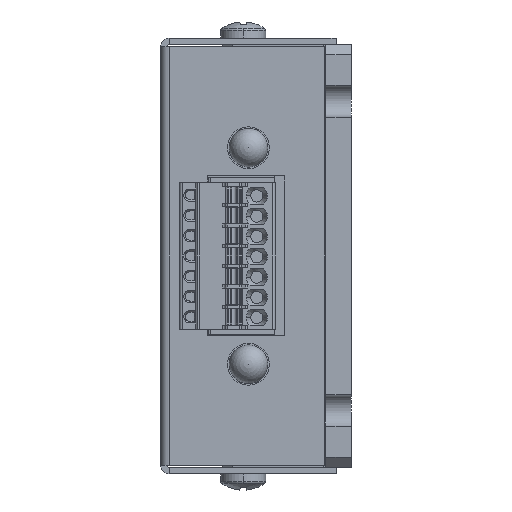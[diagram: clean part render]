
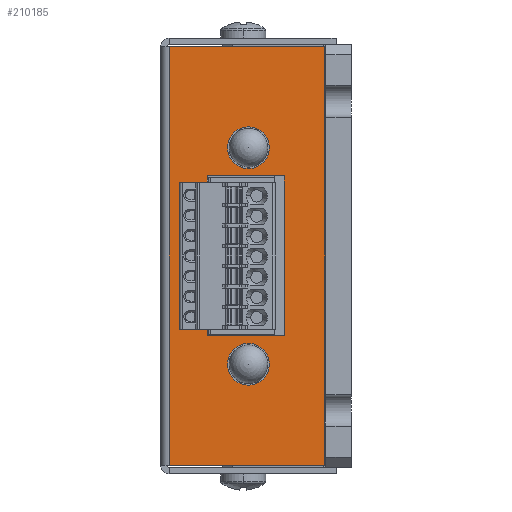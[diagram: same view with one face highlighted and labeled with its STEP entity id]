
A CAD part, left-side view. The second image highlights one B-rep face of the part: STEP entity #210185.
In plain terms, the highlighted planar face has unit normal (-1, 0, 0).
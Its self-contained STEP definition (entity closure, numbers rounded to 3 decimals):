
#51605 = CARTESIAN_POINT ( 'NONE',  ( 0., -13.373, -40.157 ) ) ;
#51606 = DIRECTION ( 'NONE',  ( 0., -1., 0. ) ) ;
#51607 = DIRECTION ( 'NONE',  ( -1., 0., 0. ) ) ;
#51608 = CARTESIAN_POINT ( 'NONE',  ( 0., -10.795, -40.157 ) ) ;
#51609 = AXIS2_PLACEMENT_3D ( 'NONE', #51608, #51607, #51606 ) ;
#51614 = CIRCLE ( 'NONE', #51609, 2.578 ) ;
#51662 = CARTESIAN_POINT ( 'NONE',  ( 0., -8.217, -13.487 ) ) ;
#51742 = CARTESIAN_POINT ( 'NONE',  ( 0., -13.373, -13.487 ) ) ;
#51743 = DIRECTION ( 'NONE',  ( 0., -1., 0. ) ) ;
#51744 = DIRECTION ( 'NONE',  ( -1., 0., 0. ) ) ;
#51745 = CARTESIAN_POINT ( 'NONE',  ( 0., -10.795, -13.487 ) ) ;
#51746 = AXIS2_PLACEMENT_3D ( 'NONE', #51745, #51744, #51743 ) ;
#51747 = CIRCLE ( 'NONE', #51746, 2.578 ) ;
#51886 = CARTESIAN_POINT ( 'NONE',  ( 0., -8.217, -40.157 ) ) ;
#84920 = CARTESIAN_POINT ( 'NONE',  ( 0., -1.041, -1.041 ) ) ;
#85207 = CARTESIAN_POINT ( 'NONE',  ( 0., -1.041, -52.603 ) ) ;
#85430 = CARTESIAN_POINT ( 'NONE',  ( 0., -20.193, -1.041 ) ) ;
#85431 = DIRECTION ( 'NONE',  ( 0., -1., 0. ) ) ;
#85433 = VECTOR ( 'NONE', #85431, 1000. ) ;
#85434 = CARTESIAN_POINT ( 'NONE',  ( 0., -0.787, -1.041 ) ) ;
#85435 = LINE ( 'NONE', #85434, #85433 ) ;
#85560 = DIRECTION ( 'NONE',  ( 0., 0., 1. ) ) ;
#85561 = VECTOR ( 'NONE', #85560, 1000. ) ;
#85562 = CARTESIAN_POINT ( 'NONE',  ( 0., -1.041, -1.041 ) ) ;
#85563 = LINE ( 'NONE', #85562, #85561 ) ;
#85639 = CARTESIAN_POINT ( 'NONE',  ( 0., -20.193, -52.603 ) ) ;
#85640 = DIRECTION ( 'NONE',  ( 0., 1., 0. ) ) ;
#85641 = VECTOR ( 'NONE', #85640, 1000. ) ;
#85642 = CARTESIAN_POINT ( 'NONE',  ( 0., -20.193, -52.603 ) ) ;
#85643 = LINE ( 'NONE', #85642, #85641 ) ;
#85645 = CARTESIAN_POINT ( 'NONE',  ( 0., -5.715, -16.967 ) ) ;
#85741 = CARTESIAN_POINT ( 'NONE',  ( 0., -20.193, -1.041 ) ) ;
#85743 = AXIS2_PLACEMENT_3D ( 'NONE', #85741, #85859, #85857 ) ;
#85750 = PLANE ( 'NONE',  #85743 ) ;
#85778 = FACE_OUTER_BOUND ( 'NONE', #210410, .T. ) ;
#85779 = FACE_BOUND ( 'NONE', #210283, .T. ) ;
#85781 = FACE_BOUND ( 'NONE', #210266, .T. ) ;
#85783 = FACE_BOUND ( 'NONE', #210187, .T. ) ;
#85851 = DIRECTION ( 'NONE',  ( 0., -1., 0. ) ) ;
#85852 = DIRECTION ( 'NONE',  ( -1., 0., 0. ) ) ;
#85853 = CARTESIAN_POINT ( 'NONE',  ( 0., -10.795, -13.487 ) ) ;
#85854 = AXIS2_PLACEMENT_3D ( 'NONE', #85853, #85852, #85851 ) ;
#85855 = CIRCLE ( 'NONE', #85854, 2.578 ) ;
#85857 = DIRECTION ( 'NONE',  ( 0., 1., 0. ) ) ;
#85859 = DIRECTION ( 'NONE',  ( 1., 0., 0. ) ) ;
#85943 = DIRECTION ( 'NONE',  ( 0., 0., -1. ) ) ;
#85944 = VECTOR ( 'NONE', #85943, 1000. ) ;
#85945 = CARTESIAN_POINT ( 'NONE',  ( 0., -20.193, -1.041 ) ) ;
#85947 = LINE ( 'NONE', #85945, #85944 ) ;
#85980 = DIRECTION ( 'NONE',  ( 0., -1., 0. ) ) ;
#85982 = DIRECTION ( 'NONE',  ( -1., 0., 0. ) ) ;
#85983 = CARTESIAN_POINT ( 'NONE',  ( 0., -10.795, -40.157 ) ) ;
#85985 = AXIS2_PLACEMENT_3D ( 'NONE', #85983, #85982, #85980 ) ;
#85987 = CIRCLE ( 'NONE', #85985, 2.578 ) ;
#86036 = CARTESIAN_POINT ( 'NONE',  ( 0., -15.24, -16.967 ) ) ;
#86039 = CARTESIAN_POINT ( 'NONE',  ( 0., -15.24, -36.652 ) ) ;
#86041 = DIRECTION ( 'NONE',  ( 0., 0., 1. ) ) ;
#86042 = VECTOR ( 'NONE', #86041, 1000. ) ;
#86043 = CARTESIAN_POINT ( 'NONE',  ( 0., -15.24, -36.652 ) ) ;
#86044 = LINE ( 'NONE', #86043, #86042 ) ;
#86122 = CARTESIAN_POINT ( 'NONE',  ( 0., -5.715, -36.652 ) ) ;
#86123 = DIRECTION ( 'NONE',  ( 0., -1., 0. ) ) ;
#86124 = VECTOR ( 'NONE', #86123, 1000. ) ;
#86125 = CARTESIAN_POINT ( 'NONE',  ( 0., -5.715, -36.652 ) ) ;
#86127 = LINE ( 'NONE', #86125, #86124 ) ;
#86178 = DIRECTION ( 'NONE',  ( 0., 0., -1. ) ) ;
#86179 = VECTOR ( 'NONE', #86178, 1000. ) ;
#86180 = CARTESIAN_POINT ( 'NONE',  ( 0., -5.715, -36.652 ) ) ;
#86181 = LINE ( 'NONE', #86180, #86179 ) ;
#86254 = LINE ( 'NONE', #86367, #86366 ) ;
#86364 = DIRECTION ( 'NONE',  ( 0., 1., 0. ) ) ;
#86366 = VECTOR ( 'NONE', #86364, 1000. ) ;
#86367 = CARTESIAN_POINT ( 'NONE',  ( 0., -5.715, -16.967 ) ) ;
#186851 = EDGE_CURVE ( 'NONE', #187024, #186855, #51614, .T. ) ;
#186855 = VERTEX_POINT ( 'NONE', #51605 ) ;
#186914 = VERTEX_POINT ( 'NONE', #51662 ) ;
#186924 = EDGE_CURVE ( 'NONE', #186914, #186926, #51747, .T. ) ;
#186926 = VERTEX_POINT ( 'NONE', #51742 ) ;
#187024 = VERTEX_POINT ( 'NONE', #51886 ) ;
#209891 = VERTEX_POINT ( 'NONE', #84920 ) ;
#209999 = VERTEX_POINT ( 'NONE', #85207 ) ;
#210056 = EDGE_CURVE ( 'NONE', #209891, #210059, #85435, .T. ) ;
#210059 = VERTEX_POINT ( 'NONE', #85430 ) ;
#210111 = EDGE_CURVE ( 'NONE', #209999, #209891, #85563, .T. ) ;
#210148 = VERTEX_POINT ( 'NONE', #85645 ) ;
#210155 = EDGE_CURVE ( 'NONE', #210156, #209999, #85643, .T. ) ;
#210156 = VERTEX_POINT ( 'NONE', #85639 ) ;
#210185 = ADVANCED_FACE ( 'NONE', ( #85783, #85781, #85779, #85778 ), #85750, .F. ) ;
#210187 = EDGE_LOOP ( 'NONE', ( #210191, #210200 ) ) ;
#210191 = ORIENTED_EDGE ( 'NONE', *, *, #210196, .F. ) ;
#210196 = EDGE_CURVE ( 'NONE', #186926, #186914, #85855, .T. ) ;
#210200 = ORIENTED_EDGE ( 'NONE', *, *, #186924, .F. ) ;
#210231 = ORIENTED_EDGE ( 'NONE', *, *, #210232, .F. ) ;
#210232 = EDGE_CURVE ( 'NONE', #210059, #210156, #85947, .T. ) ;
#210239 = ORIENTED_EDGE ( 'NONE', *, *, #210056, .F. ) ;
#210266 = EDGE_LOOP ( 'NONE', ( #210268, #210281 ) ) ;
#210268 = ORIENTED_EDGE ( 'NONE', *, *, #210272, .F. ) ;
#210272 = EDGE_CURVE ( 'NONE', #186855, #187024, #85987, .T. ) ;
#210281 = ORIENTED_EDGE ( 'NONE', *, *, #186851, .F. ) ;
#210283 = EDGE_LOOP ( 'NONE', ( #210287, #210309, #210321, #210400 ) ) ;
#210287 = ORIENTED_EDGE ( 'NONE', *, *, #210291, .F. ) ;
#210291 = EDGE_CURVE ( 'NONE', #210294, #210300, #86044, .T. ) ;
#210294 = VERTEX_POINT ( 'NONE', #86039 ) ;
#210300 = VERTEX_POINT ( 'NONE', #86036 ) ;
#210309 = ORIENTED_EDGE ( 'NONE', *, *, #210311, .F. ) ;
#210311 = EDGE_CURVE ( 'NONE', #210315, #210294, #86127, .T. ) ;
#210315 = VERTEX_POINT ( 'NONE', #86122 ) ;
#210321 = ORIENTED_EDGE ( 'NONE', *, *, #210327, .F. ) ;
#210327 = EDGE_CURVE ( 'NONE', #210148, #210315, #86181, .T. ) ;
#210400 = ORIENTED_EDGE ( 'NONE', *, *, #210405, .F. ) ;
#210405 = EDGE_CURVE ( 'NONE', #210300, #210148, #86254, .T. ) ;
#210410 = EDGE_LOOP ( 'NONE', ( #210419, #210422, #210231, #210239 ) ) ;
#210419 = ORIENTED_EDGE ( 'NONE', *, *, #210111, .F. ) ;
#210422 = ORIENTED_EDGE ( 'NONE', *, *, #210155, .F. ) ;
